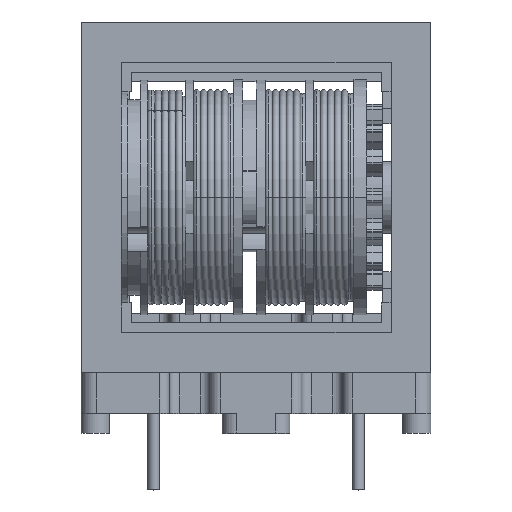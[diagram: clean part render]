
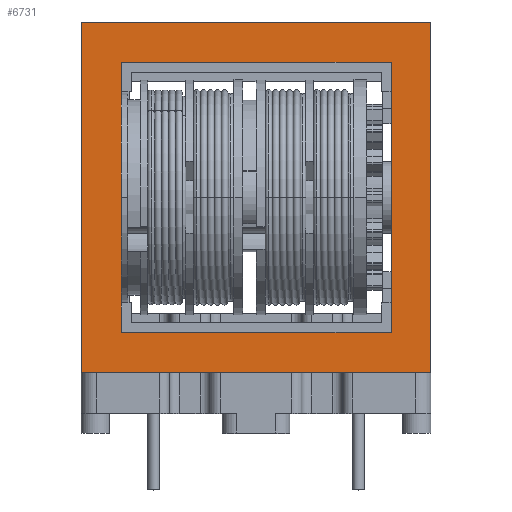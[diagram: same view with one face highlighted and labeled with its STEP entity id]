
A CAD part, top view. The second image highlights one B-rep face of the part: STEP entity #6731.
In plain terms, the highlighted planar face has unit normal (0, 0, 1).
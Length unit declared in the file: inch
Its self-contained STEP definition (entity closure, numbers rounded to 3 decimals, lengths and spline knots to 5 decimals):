
#174 = DIRECTION ( 'NONE',  ( -1., 0., 0. ) ) ;
#216 = VERTEX_POINT ( 'NONE', #888 ) ;
#217 = CARTESIAN_POINT ( 'NONE',  ( 1.15913, 1.93089, 1.4663 ) ) ;
#432 = FACE_OUTER_BOUND ( 'NONE', #4181, .T. ) ;
#462 = LINE ( 'NONE', #3711, #17589 ) ;
#677 = CARTESIAN_POINT ( 'NONE',  ( 0.62369, 1.39447, 1.4663 ) ) ;
#888 = CARTESIAN_POINT ( 'NONE',  ( 1.31661, 2.09033, 1.4663 ) ) ;
#1025 = LINE ( 'NONE', #5155, #20166 ) ;
#1273 = VERTEX_POINT ( 'NONE', #20844 ) ;
#1282 = VECTOR ( 'NONE', #174, 39.37008 ) ;
#1378 = ORIENTED_EDGE ( 'NONE', *, *, #17062, .T. ) ;
#1582 = VERTEX_POINT ( 'NONE', #14396 ) ;
#1807 = ORIENTED_EDGE ( 'NONE', *, *, #13884, .F. ) ;
#2769 = CARTESIAN_POINT ( 'NONE',  ( 1.15913, 1.53718, 1.4663 ) ) ;
#2849 = DIRECTION ( 'NONE',  ( 0., 1., 0. ) ) ;
#3110 = ORIENTED_EDGE ( 'NONE', *, *, #19639, .T. ) ;
#3321 = LINE ( 'NONE', #17587, #5677 ) ;
#3322 = ORIENTED_EDGE ( 'NONE', *, *, #15886, .F. ) ;
#3711 = CARTESIAN_POINT ( 'NONE',  ( 1.31661, 0.6986, 1.4663 ) ) ;
#4181 = EDGE_LOOP ( 'NONE', ( #1378, #11142, #4940, #3110 ) ) ;
#4940 = ORIENTED_EDGE ( 'NONE', *, *, #16136, .T. ) ;
#5023 = CARTESIAN_POINT ( 'NONE',  ( 0.08826, 1.93089, 1.4663 ) ) ;
#5155 = CARTESIAN_POINT ( 'NONE',  ( 1.31661, 0.6986, 1.4663 ) ) ;
#5668 = LINE ( 'NONE', #13177, #1282 ) ;
#5677 = VECTOR ( 'NONE', #14277, 39.37008 ) ;
#5758 = VECTOR ( 'NONE', #2849, 39.37008 ) ;
#6010 = EDGE_CURVE ( 'NONE', #1273, #19521, #9142, .T. ) ;
#6528 = VERTEX_POINT ( 'NONE', #16704 ) ;
#6731 = ADVANCED_FACE ( 'NONE', ( #432, #13529 ), #10493, .T. ) ;
#7974 = CARTESIAN_POINT ( 'NONE',  ( 1.31661, 2.09033, 1.4663 ) ) ;
#8053 = LINE ( 'NONE', #8321, #14745 ) ;
#8091 = VECTOR ( 'NONE', #11441, 39.37008 ) ;
#8321 = CARTESIAN_POINT ( 'NONE',  ( -0.06922, 0.6986, 1.4663 ) ) ;
#9142 = LINE ( 'NONE', #16221, #8091 ) ;
#9557 = VERTEX_POINT ( 'NONE', #10543 ) ;
#10493 = PLANE ( 'NONE',  #20201 ) ;
#10543 = CARTESIAN_POINT ( 'NONE',  ( 1.31661, 0.6986, 1.4663 ) ) ;
#11142 = ORIENTED_EDGE ( 'NONE', *, *, #20888, .T. ) ;
#11441 = DIRECTION ( 'NONE',  ( 1., 0., 0. ) ) ;
#11513 = EDGE_CURVE ( 'NONE', #19521, #12877, #13956, .T. ) ;
#11694 = DIRECTION ( 'NONE',  ( 1., 0., 0. ) ) ;
#11864 = VERTEX_POINT ( 'NONE', #5023 ) ;
#12014 = ORIENTED_EDGE ( 'NONE', *, *, #11513, .F. ) ;
#12213 = LINE ( 'NONE', #7974, #12739 ) ;
#12739 = VECTOR ( 'NONE', #17899, 39.37008 ) ;
#12877 = VERTEX_POINT ( 'NONE', #217 ) ;
#13177 = CARTESIAN_POINT ( 'NONE',  ( 1.15913, 1.93089, 1.4663 ) ) ;
#13529 = FACE_BOUND ( 'NONE', #16673, .T. ) ;
#13884 = EDGE_CURVE ( 'NONE', #12877, #11864, #5668, .T. ) ;
#13956 = LINE ( 'NONE', #2769, #5758 ) ;
#14277 = DIRECTION ( 'NONE',  ( 0., -1., 0. ) ) ;
#14396 = CARTESIAN_POINT ( 'NONE',  ( -0.06922, 0.6986, 1.4663 ) ) ;
#14745 = VECTOR ( 'NONE', #19789, 39.37008 ) ;
#15647 = CARTESIAN_POINT ( 'NONE',  ( 1.15913, 0.85805, 1.4663 ) ) ;
#15886 = EDGE_CURVE ( 'NONE', #11864, #1273, #3321, .T. ) ;
#16136 = EDGE_CURVE ( 'NONE', #9557, #216, #1025, .T. ) ;
#16221 = CARTESIAN_POINT ( 'NONE',  ( 1.15913, 0.85805, 1.4663 ) ) ;
#16587 = DIRECTION ( 'NONE',  ( 0., 1., 0. ) ) ;
#16673 = EDGE_LOOP ( 'NONE', ( #20614, #3322, #1807, #12014 ) ) ;
#16704 = CARTESIAN_POINT ( 'NONE',  ( -0.06922, 2.09033, 1.4663 ) ) ;
#17062 = EDGE_CURVE ( 'NONE', #6528, #1582, #8053, .T. ) ;
#17587 = CARTESIAN_POINT ( 'NONE',  ( 0.08826, 1.53718, 1.4663 ) ) ;
#17589 = VECTOR ( 'NONE', #11694, 39.37008 ) ;
#17899 = DIRECTION ( 'NONE',  ( -1., 0., 0. ) ) ;
#18884 = DIRECTION ( 'NONE',  ( 0., -1., 0. ) ) ;
#19521 = VERTEX_POINT ( 'NONE', #15647 ) ;
#19639 = EDGE_CURVE ( 'NONE', #216, #6528, #12213, .T. ) ;
#19789 = DIRECTION ( 'NONE',  ( 0., -1., 0. ) ) ;
#20166 = VECTOR ( 'NONE', #16587, 39.37008 ) ;
#20201 = AXIS2_PLACEMENT_3D ( 'NONE', #677, #20298, #18884 ) ;
#20298 = DIRECTION ( 'NONE',  ( 0., 0., 1. ) ) ;
#20614 = ORIENTED_EDGE ( 'NONE', *, *, #6010, .F. ) ;
#20844 = CARTESIAN_POINT ( 'NONE',  ( 0.08826, 0.85805, 1.4663 ) ) ;
#20888 = EDGE_CURVE ( 'NONE', #1582, #9557, #462, .T. ) ;
